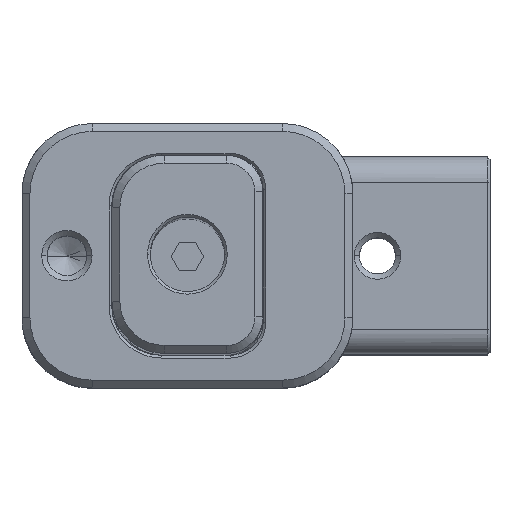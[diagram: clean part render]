
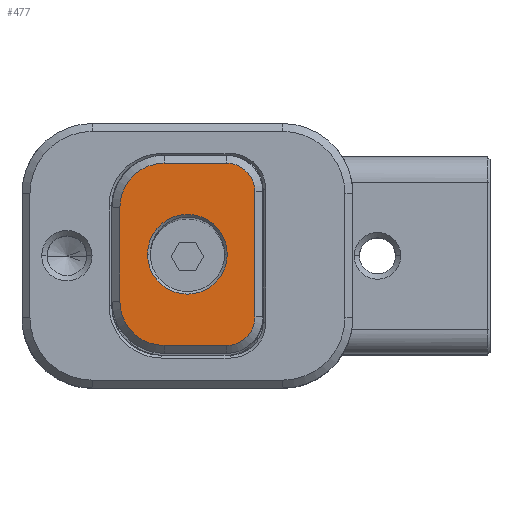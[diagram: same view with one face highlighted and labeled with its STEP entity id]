
A CAD part, top view. The second image highlights one B-rep face of the part: STEP entity #477.
In plain terms, the highlighted planar face has unit normal (0, 0, 1).
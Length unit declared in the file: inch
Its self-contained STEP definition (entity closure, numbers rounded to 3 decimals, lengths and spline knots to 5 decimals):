
#477 = ADVANCED_FACE ( 'NONE', ( #3319, #3321 ), #7398, .F. ) ;
#1281 = EDGE_LOOP ( 'NONE', ( #1957, #1958 ) ) ;
#1949 = ORIENTED_EDGE ( 'NONE', *, *, #2371, .T. ) ;
#1950 = ORIENTED_EDGE ( 'NONE', *, *, #2370, .T. ) ;
#1951 = ORIENTED_EDGE ( 'NONE', *, *, #2362, .T. ) ;
#1952 = ORIENTED_EDGE ( 'NONE', *, *, #2372, .T. ) ;
#1953 = ORIENTED_EDGE ( 'NONE', *, *, #2365, .T. ) ;
#1954 = ORIENTED_EDGE ( 'NONE', *, *, #2369, .T. ) ;
#1955 = ORIENTED_EDGE ( 'NONE', *, *, #2373, .T. ) ;
#1956 = ORIENTED_EDGE ( 'NONE', *, *, #2374, .T. ) ;
#1957 = ORIENTED_EDGE ( 'NONE', *, *, #2279, .T. ) ;
#1958 = ORIENTED_EDGE ( 'NONE', *, *, #2376, .T. ) ;
#2279 = EDGE_CURVE ( 'NONE', #4194, #4193, #10763, .T. ) ;
#2362 = EDGE_CURVE ( 'NONE', #4248, #4249, #10891, .T. ) ;
#2365 = EDGE_CURVE ( 'NONE', #4250, #4251, #10896, .T. ) ;
#2369 = EDGE_CURVE ( 'NONE', #4251, #4252, #10895, .T. ) ;
#2370 = EDGE_CURVE ( 'NONE', #4247, #4248, #10903, .T. ) ;
#2371 = EDGE_CURVE ( 'NONE', #4246, #4247, #10906, .T. ) ;
#2372 = EDGE_CURVE ( 'NONE', #4249, #4250, #10893, .T. ) ;
#2373 = EDGE_CURVE ( 'NONE', #4252, #4253, #10908, .T. ) ;
#2374 = EDGE_CURVE ( 'NONE', #4253, #4246, #10902, .T. ) ;
#2376 = EDGE_CURVE ( 'NONE', #4193, #4194, #10913, .T. ) ;
#2577 = AXIS2_PLACEMENT_3D ( 'NONE', #7399, #7404, #7405 ) ;
#3319 = FACE_OUTER_BOUND ( 'NONE', #7979, .T. ) ;
#3321 = FACE_BOUND ( 'NONE', #1281, .T. ) ;
#4193 = VERTEX_POINT ( 'NONE', #10108 ) ;
#4194 = VERTEX_POINT ( 'NONE', #10109 ) ;
#4246 = VERTEX_POINT ( 'NONE', #10161 ) ;
#4247 = VERTEX_POINT ( 'NONE', #10162 ) ;
#4248 = VERTEX_POINT ( 'NONE', #10163 ) ;
#4249 = VERTEX_POINT ( 'NONE', #10164 ) ;
#4250 = VERTEX_POINT ( 'NONE', #10165 ) ;
#4251 = VERTEX_POINT ( 'NONE', #10166 ) ;
#4252 = VERTEX_POINT ( 'NONE', #10167 ) ;
#4253 = VERTEX_POINT ( 'NONE', #10168 ) ;
#7398 = PLANE ( 'NONE',  #2577 ) ;
#7399 = CARTESIAN_POINT ( 'NONE',  ( -0.285, 0.374, 0. ) ) ;
#7404 = DIRECTION ( 'NONE',  ( 0., 0., -1. ) ) ;
#7405 = DIRECTION ( 'NONE',  ( -1., 0., 0. ) ) ;
#7979 = EDGE_LOOP ( 'NONE', ( #1949, #1950, #1951, #1952, #1953, #1954, #1955, #1956 ) ) ;
#9441 = CARTESIAN_POINT ( 'NONE',  ( 0., 0., 0. ) ) ;
#9442 = DIRECTION ( 'NONE',  ( 0., 0., -1. ) ) ;
#9443 = DIRECTION ( 'NONE',  ( -1., 0., 0. ) ) ;
#9519 = CARTESIAN_POINT ( 'NONE',  ( -0.08815, 0.17715, 0. ) ) ;
#9636 = CARTESIAN_POINT ( 'NONE',  ( 0.1472, -0.2362, 0. ) ) ;
#9648 = DIRECTION ( 'NONE',  ( 0., 0., 1. ) ) ;
#9649 = DIRECTION ( 'NONE',  ( -1., 0., 0. ) ) ;
#9653 = CARTESIAN_POINT ( 'NONE',  ( -0.08815, 0.344, 0. ) ) ;
#9656 = CARTESIAN_POINT ( 'NONE',  ( 0.1472, 0.2362, 0. ) ) ;
#9657 = DIRECTION ( 'NONE',  ( -1., 0., 0. ) ) ;
#9658 = DIRECTION ( 'NONE',  ( 0., 0., 1. ) ) ;
#9659 = DIRECTION ( 'NONE',  ( -1., 0., 0. ) ) ;
#9666 = CARTESIAN_POINT ( 'NONE',  ( -0.08815, -0.17715, 0. ) ) ;
#9667 = CARTESIAN_POINT ( 'NONE',  ( 0.1472, -0.344, 0. ) ) ;
#9668 = DIRECTION ( 'NONE',  ( 1., 0., 0. ) ) ;
#9670 = DIRECTION ( 'NONE',  ( 0., 0., 1. ) ) ;
#9671 = DIRECTION ( 'NONE',  ( -1., 0., 0. ) ) ;
#9672 = CARTESIAN_POINT ( 'NONE',  ( 0.255, 0.2362, 0. ) ) ;
#9673 = DIRECTION ( 'NONE',  ( 0., 1., 0. ) ) ;
#9674 = CARTESIAN_POINT ( 'NONE',  ( 0., 0., 0. ) ) ;
#9675 = DIRECTION ( 'NONE',  ( 0., 0., 1. ) ) ;
#9676 = DIRECTION ( 'NONE',  ( -1., 0., 0. ) ) ;
#9677 = CARTESIAN_POINT ( 'NONE',  ( -0.255, -0.17715, 0. ) ) ;
#9678 = DIRECTION ( 'NONE',  ( 0., -1., 0. ) ) ;
#9683 = DIRECTION ( 'NONE',  ( 0., 0., -1. ) ) ;
#9684 = DIRECTION ( 'NONE',  ( -1., 0., 0. ) ) ;
#10108 = CARTESIAN_POINT ( 'NONE',  ( -0.1505, 0., 0. ) ) ;
#10109 = CARTESIAN_POINT ( 'NONE',  ( 0.1505, 0., 0. ) ) ;
#10161 = CARTESIAN_POINT ( 'NONE',  ( -0.255, -0.17715, 0. ) ) ;
#10162 = CARTESIAN_POINT ( 'NONE',  ( -0.08815, -0.344, 0. ) ) ;
#10163 = CARTESIAN_POINT ( 'NONE',  ( 0.1472, -0.344, 0. ) ) ;
#10164 = CARTESIAN_POINT ( 'NONE',  ( 0.255, -0.2362, 0. ) ) ;
#10165 = CARTESIAN_POINT ( 'NONE',  ( 0.255, 0.2362, 0. ) ) ;
#10166 = CARTESIAN_POINT ( 'NONE',  ( 0.1472, 0.344, 0. ) ) ;
#10167 = CARTESIAN_POINT ( 'NONE',  ( -0.08815, 0.344, 0. ) ) ;
#10168 = CARTESIAN_POINT ( 'NONE',  ( -0.255, 0.17715, 0. ) ) ;
#10491 = AXIS2_PLACEMENT_3D ( 'NONE', #9441, #9442, #9443 ) ;
#10527 = AXIS2_PLACEMENT_3D ( 'NONE', #9656, #9658, #9659 ) ;
#10533 = AXIS2_PLACEMENT_3D ( 'NONE', #9636, #9648, #9649 ) ;
#10535 = AXIS2_PLACEMENT_3D ( 'NONE', #9674, #9683, #9684 ) ;
#10536 = AXIS2_PLACEMENT_3D ( 'NONE', #9666, #9670, #9671 ) ;
#10538 = AXIS2_PLACEMENT_3D ( 'NONE', #9519, #9675, #9676 ) ;
#10763 = CIRCLE ( 'NONE', #10491, 0.1505 ) ;
#10891 = CIRCLE ( 'NONE', #10533, 0.1078 ) ;
#10893 = LINE ( 'NONE', #9672, #10894 ) ;
#10894 = VECTOR ( 'NONE', #9673, 39.37008 ) ;
#10895 = LINE ( 'NONE', #9653, #10901 ) ;
#10896 = CIRCLE ( 'NONE', #10527, 0.1078 ) ;
#10901 = VECTOR ( 'NONE', #9657, 39.37008 ) ;
#10902 = LINE ( 'NONE', #9677, #10905 ) ;
#10903 = LINE ( 'NONE', #9667, #10904 ) ;
#10904 = VECTOR ( 'NONE', #9668, 39.37008 ) ;
#10905 = VECTOR ( 'NONE', #9678, 39.37008 ) ;
#10906 = CIRCLE ( 'NONE', #10536, 0.16685 ) ;
#10908 = CIRCLE ( 'NONE', #10538, 0.16685 ) ;
#10913 = CIRCLE ( 'NONE', #10535, 0.1505 ) ;
